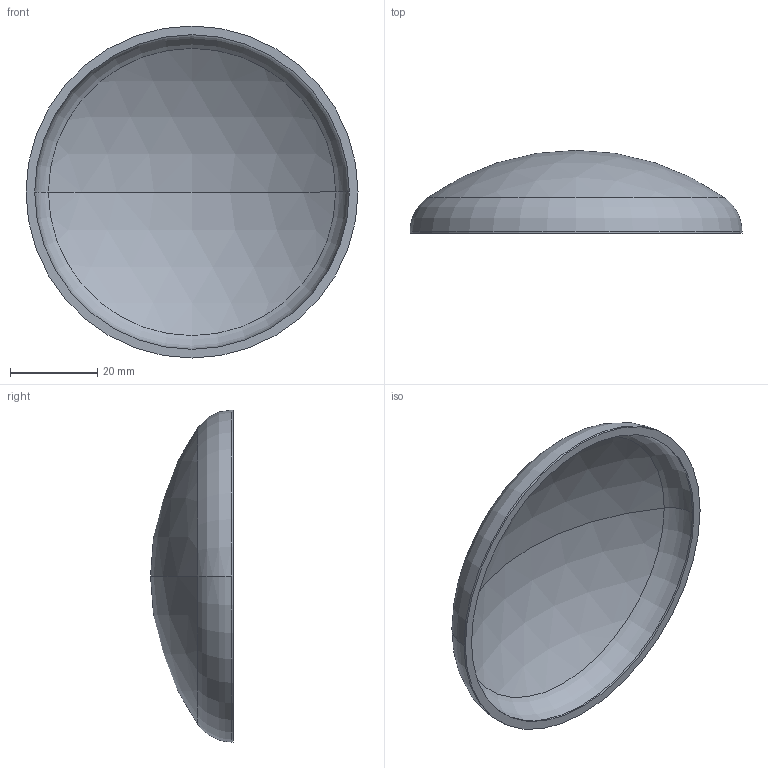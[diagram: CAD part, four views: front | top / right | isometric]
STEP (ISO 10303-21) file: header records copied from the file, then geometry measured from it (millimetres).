
FILE_DESCRIPTION (( 'STEP AP203' ), '1' );
FILE_NAME ('3D_R365_76.1x2_173371750.STEP', '2024-07-16T06:38:51', ( '' ), ( '' ), 'SwSTEP 2.0', 'SolidWorks 2024', '' );
FILE_SCHEMA (( 'CONFIG_CONTROL_DESIGN' ));
Length unit declared in the file: millimetre
Products named in the file (1): 3D_R365_76.1x2_173371750
Bounding box: 76.1 x 19 x 76.1 mm (x, y, z)
Volume: 11599.4 mm3; surface area: 12073.3 mm2
Topology: 1 solids, 1 shells, 13 faces, 24 edges, 14 vertices
Faces by surface type: sphere 4, torus 4, cylinder 4, plane 1
Entity records: 407 total; most frequent: DIRECTION 72, CARTESIAN_POINT 52, ORIENTED_EDGE 48, AXIS2_PLACEMENT_3D 34, EDGE_CURVE 24, CIRCLE 20, VERTEX_POINT 14, EDGE_LOOP 14
